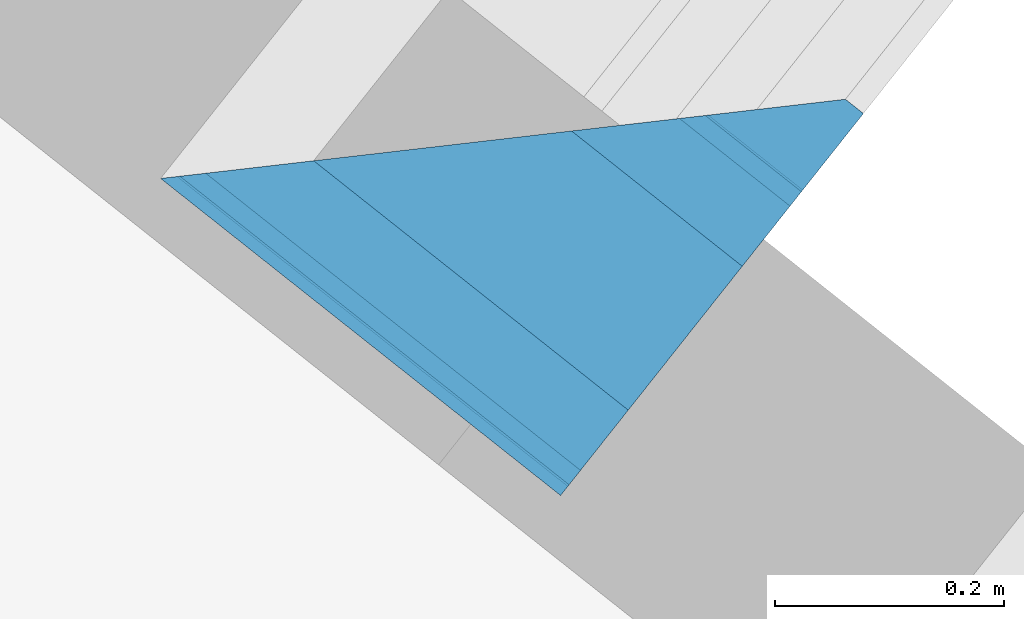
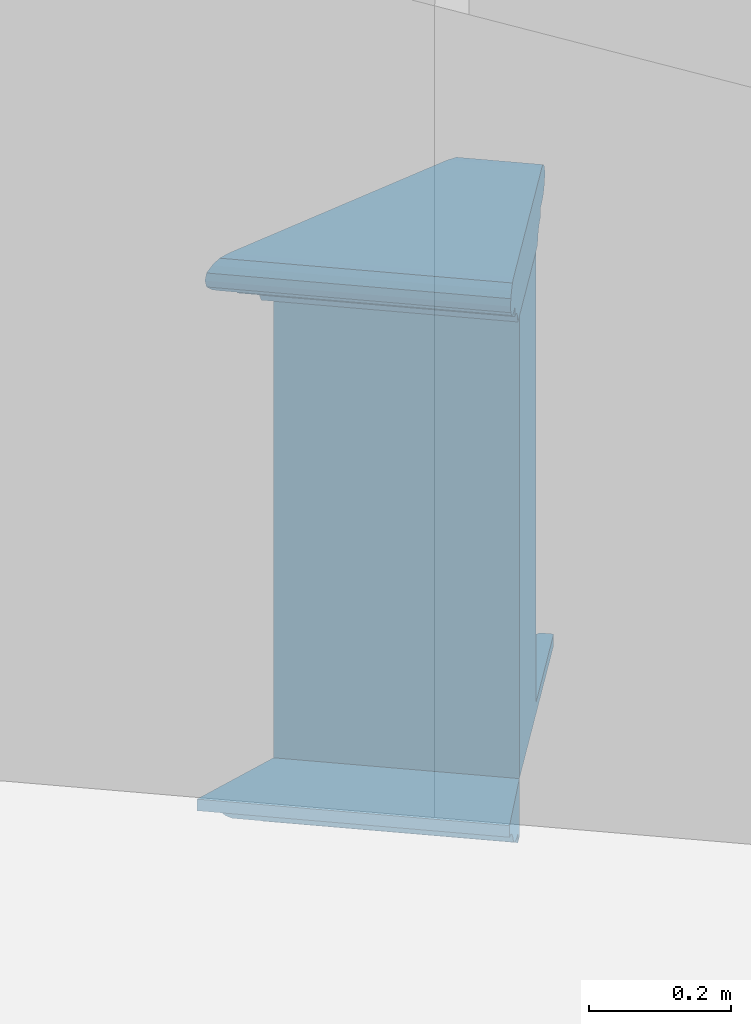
# One storey, part 5 of 6: 3 walls.
"""IFC4 building model written with IfcOpenShell, lengths in metres."""

from ifc_helpers import new_model, si_unit, frame, origin_with_axes, place, context, subcontext, project, spatial, polyline, outline, extrude, clip, halfspace, material_profile, profile_set, profile_usage, type_object, element, save


model = new_model("IFC4")

# Units and contexts
model_context = context("Model", 3, world=origin_with_axes())
body_context = subcontext(model_context, "Body", "Model", "MODEL_VIEW")
ifc_project = project(units=[si_unit("PLANEANGLEUNIT", "RADIAN"), si_unit("MASSUNIT", "GRAM", prefix="KILO"), si_unit("FORCEUNIT", "NEWTON", prefix="KILO"), si_unit("LENGTHUNIT", "METRE"), si_unit("AREAUNIT", "SQUARE_METRE"), si_unit("VOLUMEUNIT", "CUBIC_METRE")], contexts=[model_context, model_context])

# Sites, building, storey
site_1_placement = place(None, origin_with_axes())
site_1 = spatial("IfcSite", under=ifc_project, at=site_1_placement, Name="Tamar")
site_2_placement = place(site_1_placement, origin_with_axes())
site_2 = spatial("IfcSite", under=site_1, at=site_2_placement, Name="Site plot-5", CompositionType="ELEMENT")
building_placement = place(None, origin_with_axes())
building = spatial("IfcBuilding", under=site_2, at=building_placement, Name="Building plot-5", CompositionType="ELEMENT")
storey_placement = place(None, frame((0.0, 0.0, 26.85), z_axis=(0.0, 0.0, 1.0), x_axis=(1.0, 0.0, 0.0)))
storey = spatial("IfcBuildingStorey", under=building, at=storey_placement, Name="plot-5 1", CompositionType="ELEMENT", Elevation=26.85)

# Walls
ifc_material_profile_1 = material_profile(None, outline(polyline([(0.25, 0.0), (0.25, 0.795), (0.09, 0.795), (0.09, 0.02), (-0.08, 0.02), (-0.08, 0.0), (0.25, 0.0)])))
ifc_profile_set_1 = profile_set([ifc_material_profile_1])
ifc_profile_usage_1 = profile_usage(ifc_profile_set_1)
wall_type_1 = type_object("IfcWallType", Name="parapet_0", PredefinedType="PARAPET", material=ifc_profile_set_1)
wall_1_placement = place(storey_placement, frame((233.784140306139, 274.565331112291, 0.0), z_axis=(-0.783658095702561, 0.621192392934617, 0.0), x_axis=(-0.621192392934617, -0.783658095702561, 0.0)))
element("IfcWall", 1, at=wall_1_placement, inside=storey, type_object=wall_type_1, material=ifc_profile_usage_1, Name="parapet_0", context=body_context, shape_type="Clipping", body=[
    clip(clip(extrude(outline(polyline([(0.25, 0.0), (0.25, 0.795), (0.09, 0.795), (0.09, 0.02), (-0.08, 0.02), (-0.08, 0.0), (0.25, 0.0)])), origin_with_axes(), (0.0, 0.0, 1.0), 2.09999999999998), halfspace(frame((0.0, 0.0, 1.09999999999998), z_axis=(0.707106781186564, 0.0, -0.707106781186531), x_axis=(0.0, 1.0, 0.0)), True)), halfspace(frame((0.0, 0.0, 1.0), z_axis=(1.90346036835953e-14, 0.0, -1.0), x_axis=(0.0, 1.0, 0.0)), False)),
])
ifc_material_profile_2 = material_profile(None, outline(polyline([(0.265, 0.795), (0.268, 0.807), (0.274, 0.816), (0.283, 0.822), (0.295, 0.825), (0.295, 0.84), (0.305, 0.84), (0.317, 0.842), (0.326, 0.849), (0.333, 0.858), (0.335, 0.87), (0.333, 0.882), (0.326, 0.891), (0.317, 0.898), (0.305, 0.9), (0.035, 0.9), (0.023, 0.898), (0.014, 0.891), (0.007, 0.882), (0.005, 0.87), (0.007, 0.858), (0.014, 0.849), (0.023, 0.842), (0.035, 0.84), (0.045, 0.84), (0.045, 0.825), (0.057, 0.822), (0.066, 0.816), (0.072, 0.807), (0.075, 0.795), (0.265, 0.795)])))
ifc_profile_set_2 = profile_set([ifc_material_profile_2])
ifc_profile_usage_2 = profile_usage(ifc_profile_set_2)
wall_type_2 = type_object("IfcWallType", Name="parapet_1", PredefinedType="PARAPET", material=ifc_profile_set_2)
wall_2_placement = place(storey_placement, frame((233.784140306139, 274.565331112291, 0.0), z_axis=(-0.783658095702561, 0.621192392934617, 0.0), x_axis=(-0.621192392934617, -0.783658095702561, 0.0)))
element("IfcWall", 2, at=wall_2_placement, inside=storey, type_object=wall_type_2, material=ifc_profile_usage_2, Name="parapet_1", context=body_context, shape_type="Clipping", body=[
    clip(clip(extrude(outline(polyline([(0.265, 0.795), (0.268, 0.807), (0.274, 0.816), (0.283, 0.822), (0.295, 0.825), (0.295, 0.84), (0.305, 0.84), (0.317, 0.842), (0.326, 0.849), (0.333, 0.858), (0.335, 0.87), (0.333, 0.882), (0.326, 0.891), (0.317, 0.898), (0.305, 0.9), (0.035, 0.9), (0.023, 0.898), (0.014, 0.891), (0.007, 0.882), (0.005, 0.87), (0.007, 0.858), (0.014, 0.849), (0.023, 0.842), (0.035, 0.84), (0.045, 0.84), (0.045, 0.825), (0.057, 0.822), (0.066, 0.816), (0.072, 0.807), (0.075, 0.795), (0.265, 0.795)])), origin_with_axes(), (0.0, 0.0, 1.0), 2.09999999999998), halfspace(frame((0.0, 0.0, 1.09999999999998), z_axis=(0.707106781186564, 0.0, -0.707106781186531), x_axis=(0.0, 1.0, 0.0)), True)), halfspace(frame((0.0, 0.0, 1.0), z_axis=(1.90346036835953e-14, 0.0, -1.0), x_axis=(0.0, 1.0, 0.0)), False)),
])
ifc_material_profile_3 = material_profile(None, outline(polyline([(0.25, -0.1), (0.265, -0.1), (0.265, -0.085), (0.278, -0.084), (0.289, -0.081), (0.301, -0.074), (0.309, -0.065), (0.315, -0.055), (0.324, -0.044), (0.334, -0.038), (0.345, -0.035), (0.345, -0.015), (0.25, 0.0), (0.25, -0.1)])))
ifc_profile_set_3 = profile_set([ifc_material_profile_3])
ifc_profile_usage_3 = profile_usage(ifc_profile_set_3)
wall_type_3 = type_object("IfcWallType", Name="parapet_2", PredefinedType="PARAPET", material=ifc_profile_set_3)
wall_3_placement = place(storey_placement, frame((233.784140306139, 274.565331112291, 0.0), z_axis=(-0.783658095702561, 0.621192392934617, 0.0), x_axis=(-0.621192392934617, -0.783658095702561, 0.0)))
element("IfcWall", 3, at=wall_3_placement, inside=storey, type_object=wall_type_3, material=ifc_profile_usage_3, Name="parapet_2", context=body_context, shape_type="Clipping", body=[
    clip(clip(extrude(outline(polyline([(0.25, -0.1), (0.265, -0.1), (0.265, -0.085), (0.278, -0.084), (0.289, -0.081), (0.301, -0.074), (0.309, -0.065), (0.315, -0.055), (0.324, -0.044), (0.334, -0.038), (0.345, -0.035), (0.345, -0.015), (0.25, 0.0), (0.25, -0.1)])), origin_with_axes(), (0.0, 0.0, 1.0), 2.09999999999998), halfspace(frame((0.0, 0.0, 1.09999999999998), z_axis=(0.707106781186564, 0.0, -0.707106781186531), x_axis=(0.0, 1.0, 0.0)), True)), halfspace(frame((0.0, 0.0, 1.0), z_axis=(1.90346036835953e-14, 0.0, -1.0), x_axis=(0.0, 1.0, 0.0)), False)),
])

save(model, "model.ifc")
